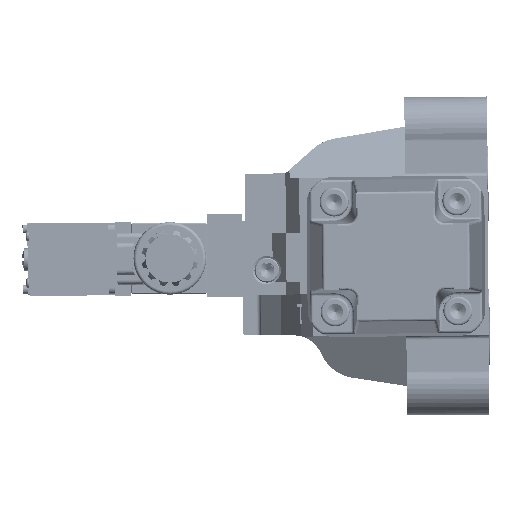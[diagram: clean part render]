
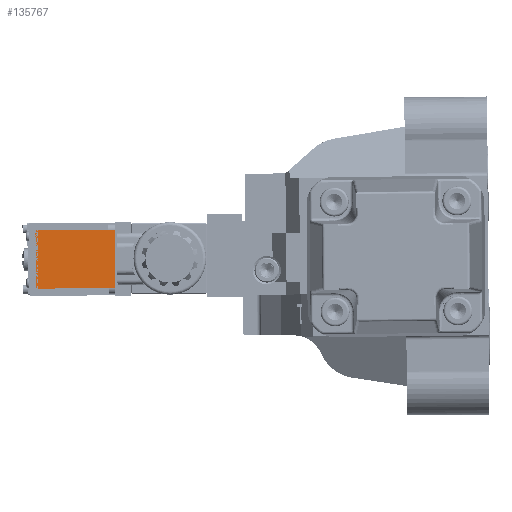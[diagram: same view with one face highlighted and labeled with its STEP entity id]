
A CAD part, left-side view. The second image highlights one B-rep face of the part: STEP entity #135767.
In plain terms, the highlighted planar face has unit normal (-1, 0, 0) as drawn and (1, 0, 0) by its records, which use the part's own axes.
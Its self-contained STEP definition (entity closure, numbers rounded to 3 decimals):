
#866 = ORIENTED_EDGE ( 'NONE', *, *, #188533, .T. ) ;
#6043 = CARTESIAN_POINT ( 'NONE',  ( 80.798, 36.408, 64.112 ) ) ;
#20538 = PLANE ( 'NONE',  #95286 ) ;
#42347 = CARTESIAN_POINT ( 'NONE',  ( 80.798, 36.408, 28.112 ) ) ;
#45250 = CARTESIAN_POINT ( 'NONE',  ( 80.798, 36.408, 28.112 ) ) ;
#46652 = VECTOR ( 'NONE', #73237, 1000. ) ;
#47775 = EDGE_CURVE ( 'NONE', #177317, #71444, #148179, .T. ) ;
#53689 = VECTOR ( 'NONE', #59564, 1000. ) ;
#59564 = DIRECTION ( 'NONE',  ( 0., 1., 0. ) ) ;
#60967 = DIRECTION ( 'NONE',  ( 0., 0., 1. ) ) ;
#64937 = ORIENTED_EDGE ( 'NONE', *, *, #81347, .F. ) ;
#67795 = VECTOR ( 'NONE', #76956, 1000. ) ;
#71444 = VERTEX_POINT ( 'NONE', #171876 ) ;
#71479 = CARTESIAN_POINT ( 'NONE',  ( 80.798, 36.408, 64.112 ) ) ;
#73237 = DIRECTION ( 'NONE',  ( 0., 1., 0. ) ) ;
#73728 = VECTOR ( 'NONE', #60967, 1000. ) ;
#76956 = DIRECTION ( 'NONE',  ( 0., 0., 1. ) ) ;
#81347 = EDGE_CURVE ( 'NONE', #133194, #71444, #132595, .T. ) ;
#95286 = AXIS2_PLACEMENT_3D ( 'NONE', #71479, #145181, #132838 ) ;
#132595 = LINE ( 'NONE', #180636, #46652 ) ;
#132838 = DIRECTION ( 'NONE',  ( 0., 1., 0. ) ) ;
#133194 = VERTEX_POINT ( 'NONE', #6043 ) ;
#133850 = ORIENTED_EDGE ( 'NONE', *, *, #193920, .F. ) ;
#135767 = ADVANCED_FACE ( 'NONE', ( #161544 ), #20538, .F. ) ;
#145181 = DIRECTION ( 'NONE',  ( -1., 0., 0. ) ) ;
#148179 = LINE ( 'NONE', #198957, #73728 ) ;
#153227 = VERTEX_POINT ( 'NONE', #42347 ) ;
#154602 = LINE ( 'NONE', #45250, #53689 ) ;
#155674 = CARTESIAN_POINT ( 'NONE',  ( 80.798, 36.408, 64.112 ) ) ;
#161544 = FACE_OUTER_BOUND ( 'NONE', #176271, .T. ) ;
#163321 = CARTESIAN_POINT ( 'NONE',  ( 80.798, 85.408, 28.112 ) ) ;
#171048 = LINE ( 'NONE', #155674, #67795 ) ;
#171876 = CARTESIAN_POINT ( 'NONE',  ( 80.798, 85.408, 64.112 ) ) ;
#176271 = EDGE_LOOP ( 'NONE', ( #176387, #64937, #133850, #866 ) ) ;
#176387 = ORIENTED_EDGE ( 'NONE', *, *, #47775, .T. ) ;
#177317 = VERTEX_POINT ( 'NONE', #163321 ) ;
#180636 = CARTESIAN_POINT ( 'NONE',  ( 80.798, 36.408, 64.112 ) ) ;
#188533 = EDGE_CURVE ( 'NONE', #153227, #177317, #154602, .T. ) ;
#193920 = EDGE_CURVE ( 'NONE', #153227, #133194, #171048, .T. ) ;
#198957 = CARTESIAN_POINT ( 'NONE',  ( 80.798, 85.408, 64.112 ) ) ;
